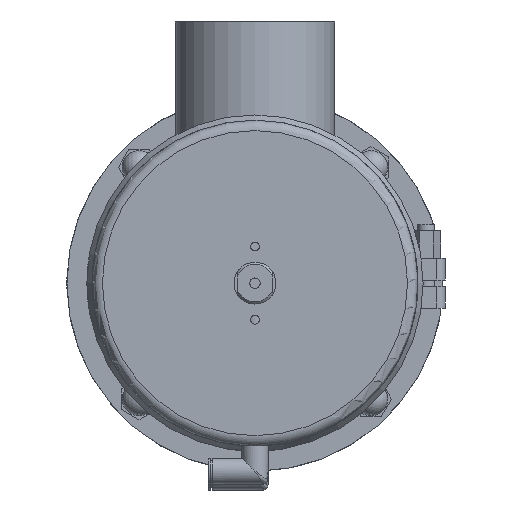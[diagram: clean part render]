
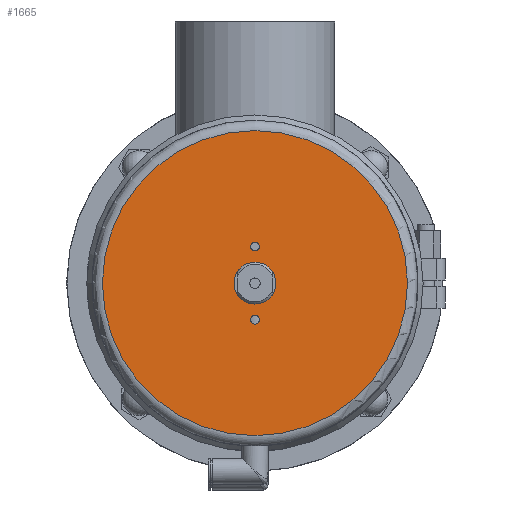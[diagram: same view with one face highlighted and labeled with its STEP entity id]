
A CAD part, front view. The second image highlights one B-rep face of the part: STEP entity #1665.
In plain terms, the highlighted planar face has unit normal (0, -1, 0) as drawn and (0, 1, 0) by its records, which use the part's own axes.
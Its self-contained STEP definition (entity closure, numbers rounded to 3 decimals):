
#34 = FACE_BOUND ( 'NONE', #12027, .T. ) ;
#81 = VERTEX_POINT ( 'NONE', #21198 ) ;
#264 = DIRECTION ( 'NONE',  ( 0., 1., 0. ) ) ;
#1665 = ADVANCED_FACE ( 'NONE', ( #5240, #34, #1885, #8952 ), #22761, .F. ) ;
#1806 = VERTEX_POINT ( 'NONE', #1937 ) ;
#1885 = FACE_OUTER_BOUND ( 'NONE', #20573, .T. ) ;
#1937 = CARTESIAN_POINT ( 'NONE',  ( 0., 263., 19.6 ) ) ;
#2303 = CIRCLE ( 'NONE', #5869, 73. ) ;
#2379 = DIRECTION ( 'NONE',  ( 0., 1., 0. ) ) ;
#3710 = VERTEX_POINT ( 'NONE', #15498 ) ;
#3897 = AXIS2_PLACEMENT_3D ( 'NONE', #5109, #264, #9463 ) ;
#4224 = AXIS2_PLACEMENT_3D ( 'NONE', #15787, #19416, #13552 ) ;
#5109 = CARTESIAN_POINT ( 'NONE',  ( 0., 263., -17.5 ) ) ;
#5240 = FACE_BOUND ( 'NONE', #16307, .T. ) ;
#5581 = VERTEX_POINT ( 'NONE', #9790 ) ;
#5869 = AXIS2_PLACEMENT_3D ( 'NONE', #6218, #2379, #17296 ) ;
#6218 = CARTESIAN_POINT ( 'NONE',  ( 0., 263., 0. ) ) ;
#6751 = DIRECTION ( 'NONE',  ( 0., -1., 0. ) ) ;
#7757 = AXIS2_PLACEMENT_3D ( 'NONE', #13178, #22625, #22250 ) ;
#8952 = FACE_BOUND ( 'NONE', #10485, .T. ) ;
#9463 = DIRECTION ( 'NONE',  ( 0., 0., 1. ) ) ;
#9790 = CARTESIAN_POINT ( 'NONE',  ( 0., 263., -15.4 ) ) ;
#10166 = EDGE_CURVE ( 'NONE', #1806, #1806, #10557, .T. ) ;
#10222 = DIRECTION ( 'NONE',  ( 0., 0., -1. ) ) ;
#10286 = CIRCLE ( 'NONE', #15845, 10. ) ;
#10485 = EDGE_LOOP ( 'NONE', ( #24086 ) ) ;
#10557 = CIRCLE ( 'NONE', #4224, 2.1 ) ;
#12027 = EDGE_LOOP ( 'NONE', ( #12332 ) ) ;
#12332 = ORIENTED_EDGE ( 'NONE', *, *, #10166, .F. ) ;
#12456 = CARTESIAN_POINT ( 'NONE',  ( 0., 263., 0. ) ) ;
#13178 = CARTESIAN_POINT ( 'NONE',  ( -78., 263., 0. ) ) ;
#13552 = DIRECTION ( 'NONE',  ( 0., 0., 1. ) ) ;
#15498 = CARTESIAN_POINT ( 'NONE',  ( 0., 263., -73. ) ) ;
#15639 = EDGE_CURVE ( 'NONE', #5581, #5581, #22962, .T. ) ;
#15787 = CARTESIAN_POINT ( 'NONE',  ( 0., 263., 17.5 ) ) ;
#15845 = AXIS2_PLACEMENT_3D ( 'NONE', #12456, #6751, #10222 ) ;
#16307 = EDGE_LOOP ( 'NONE', ( #24261 ) ) ;
#17169 = ORIENTED_EDGE ( 'NONE', *, *, #19016, .T. ) ;
#17204 = EDGE_CURVE ( 'NONE', #81, #81, #10286, .T. ) ;
#17296 = DIRECTION ( 'NONE',  ( 0., 0., -1. ) ) ;
#19016 = EDGE_CURVE ( 'NONE', #3710, #3710, #2303, .T. ) ;
#19416 = DIRECTION ( 'NONE',  ( 0., 1., 0. ) ) ;
#20573 = EDGE_LOOP ( 'NONE', ( #17169 ) ) ;
#21198 = CARTESIAN_POINT ( 'NONE',  ( 0., 263., -10. ) ) ;
#22250 = DIRECTION ( 'NONE',  ( 0., 0., -1. ) ) ;
#22625 = DIRECTION ( 'NONE',  ( 0., -1., 0. ) ) ;
#22761 = PLANE ( 'NONE',  #7757 ) ;
#22962 = CIRCLE ( 'NONE', #3897, 2.1 ) ;
#24086 = ORIENTED_EDGE ( 'NONE', *, *, #17204, .T. ) ;
#24261 = ORIENTED_EDGE ( 'NONE', *, *, #15639, .F. ) ;
